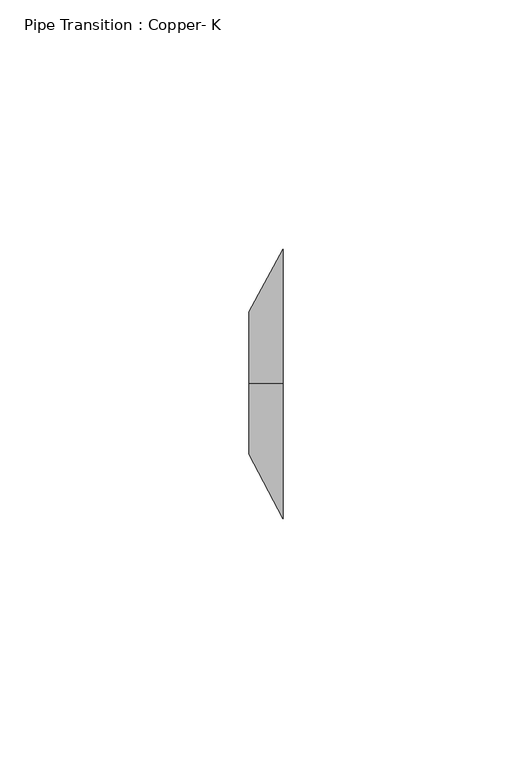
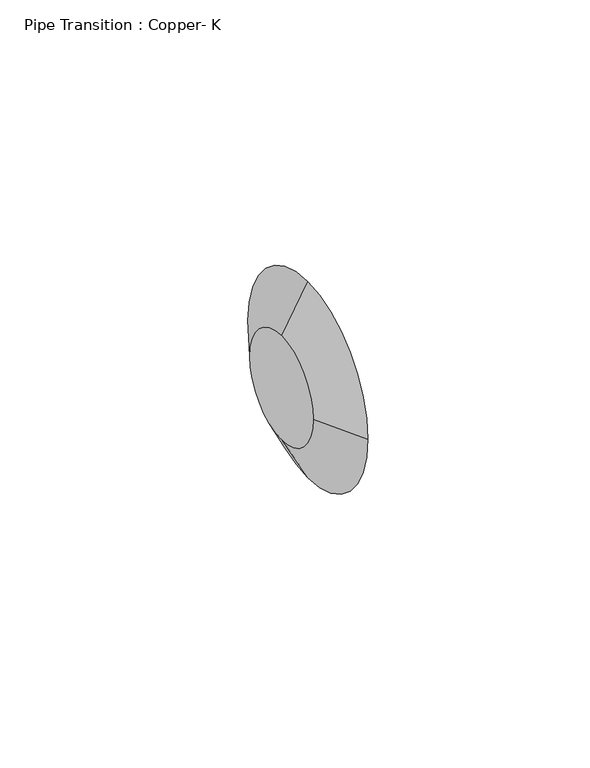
"""IFC4 building model written with IfcOpenShell, lengths in millimetres: pipe fitting geometry, Pipe Transition : Copper- K."""

import ifcopenshell
import ifcopenshell.guid

model = None  # the IFC model being written
_history = None  # IfcOwnerHistory: only IFC2X3 demands one
_inside = {}  # id of a spatial element -> (the spatial element, [elements in it])
_under = {}  # id of a project, library or spatial element -> (it, [spatial elements below it])
_declared = {}  # id of a project -> (the project, [libraries it declares])
_typed = {}  # id of a type object -> (the type object, [elements of that type])
_made_of = {}  # id of a material, layer set ... -> (it, [elements and type objects made of it])


def new_model(schema):
    """Start an empty IFC model of exactly this schema.

    Asked for "IFC4X3", IfcOpenShell would pick the latest addendum, in which some entities
    have other attributes; the version numbers below select the first issue.
    IFC2X3 requires an IfcOwnerHistory on every rooted entity: one is made here for all.
    """
    global model, _history
    if schema == "IFC4X3":
        model = ifcopenshell.file(schema_version=(4, 3, 0, 0))
    else:
        model = ifcopenshell.file(schema=schema)
    _inside.clear()
    _under.clear()
    _declared.clear()
    _typed.clear()
    _made_of.clear()
    _history = None
    if model.schema == "IFC2X3":
        org = make("IfcOrganization", Name="unknown")
        user = make(
            "IfcPersonAndOrganization",
            ThePerson=make("IfcPerson", FamilyName="unknown"),
            TheOrganization=org,
        )
        app = make(
            "IfcApplication",
            ApplicationDeveloper=org,
            Version="unknown",
            ApplicationFullName="unknown",
            ApplicationIdentifier="unknown",
        )
        _history = make(
            "IfcOwnerHistory",
            OwningUser=user,
            OwningApplication=app,
            ChangeAction="ADDED",
            CreationDate=0,
        )
    return model


def make(cls, **values):
    """One entity of the class cls with the attributes given. An attribute that is None is left unset."""
    return model.create_entity(
        cls, **{name: value for name, value in values.items() if value is not None}
    )


def rooted(cls, **values):
    """An entity with a GlobalId (a new one), such as an element, a storey or a relation."""
    return make(cls, GlobalId=ifcopenshell.guid.new(), OwnerHistory=_history, **values)


def si_unit(unit_type, name, prefix=None):
    """IfcSIUnit, for example si_unit("LENGTHUNIT", "METRE", prefix="MILLI")."""
    return make("IfcSIUnit", UnitType=unit_type, Prefix=prefix, Name=name)


def assignment(units):
    """IfcUnitAssignment: the units of a project."""
    return None if units is None else make("IfcUnitAssignment", Units=units)


def point(xyz):
    """IfcCartesianPoint."""
    return None if xyz is None else make("IfcCartesianPoint", Coordinates=xyz)


def direction(xyz):
    """IfcDirection."""
    return None if xyz is None else make("IfcDirection", DirectionRatios=xyz)


def frame(location, z_axis=None, x_axis=None):
    """IfcAxis2Placement3D, a coordinate frame: its origin and axes. An axis left out is left unset."""
    return make(
        "IfcAxis2Placement3D",
        Location=point(location),
        Axis=direction(z_axis),
        RefDirection=direction(x_axis),
    )


def origin():
    """The frame at (0, 0, 0) with its axes left unset."""
    return frame((0.0, 0.0, 0.0))


def place(relative_to, where):
    """IfcLocalPlacement: puts the frame where relative to a parent placement (None: the world)."""
    return make(
        "IfcLocalPlacement", PlacementRelTo=relative_to, RelativePlacement=where
    )


def context(
    kind, dimensions, precision=None, world=None, true_north=None, identifier=None
):
    """IfcGeometricRepresentationContext, for example the 3D "Model" context."""
    return make(
        "IfcGeometricRepresentationContext",
        ContextIdentifier=identifier,
        ContextType=kind,
        CoordinateSpaceDimension=dimensions,
        Precision=precision,
        WorldCoordinateSystem=world,
        TrueNorth=true_north,
    )


def project(units=None, contexts=None):
    """IfcProject with its units and contexts."""
    return rooted(
        "IfcProject",
        Name="project",
        RepresentationContexts=contexts,
        UnitsInContext=assignment(units),
    )


def spatial(cls, under=None, at=None, **own):
    """A site, building, storey or space (cls), placed at a placement, below another one or the project."""
    s = rooted(cls, ObjectPlacement=at, **own)
    if under is not None:
        _under.setdefault(under.id(), (under, []))[1].append(s)
    return s


def circle_curve(where, radius):
    """IfcCircle in the frame where."""
    return make("IfcCircle", Position=where, Radius=radius)


def shape(context_of_items, identifier, shape_type, items):
    """IfcShapeRepresentation: the items that make up one representation, for example the "Body"."""
    return make(
        "IfcShapeRepresentation",
        ContextOfItems=context_of_items,
        RepresentationIdentifier=identifier,
        RepresentationType=shape_type,
        Items=items,
    )


def source(mapping_origin, context_of_items, identifier, shape_type, items):
    """IfcRepresentationMap: a shape defined once, which mapped items show again and again."""
    return make(
        "IfcRepresentationMap",
        MappingOrigin=mapping_origin,
        MappedRepresentation=shape(context_of_items, identifier, shape_type, items),
    )


def transform(
    local_origin,
    x_axis=None,
    y_axis=None,
    z_axis=None,
    scale=None,
    scale2=None,
    scale3=None,
    uniform=True,
):
    """IfcCartesianTransformationOperator3D, or its non-uniform kind. x_axis, y_axis, z_axis: its Axis1, 2, 3."""
    if uniform:
        return make(
            "IfcCartesianTransformationOperator3D",
            Axis1=direction(x_axis),
            Axis2=direction(y_axis),
            LocalOrigin=point(local_origin),
            Scale=scale,
            Axis3=direction(z_axis),
        )
    return make(
        "IfcCartesianTransformationOperator3DnonUniform",
        Axis1=direction(x_axis),
        Axis2=direction(y_axis),
        LocalOrigin=point(local_origin),
        Scale=scale,
        Axis3=direction(z_axis),
        Scale2=scale2,
        Scale3=scale3,
    )


def mapped(mapping_source, mapping_target):
    """IfcMappedItem: shows the shape of a source again, moved by a transform."""
    return make(
        "IfcMappedItem", MappingSource=mapping_source, MappingTarget=mapping_target
    )


def made_of(thing, what):
    """Note that an element or type object is made of a material, layer set ...; save() writes the relation."""
    if what is not None:
        _made_of.setdefault(what.id(), (what, []))[1].append(thing)
    return thing


def element(
    cls,
    number,
    at=None,
    inside=None,
    cuts=None,
    type_object=None,
    material=None,
    context=None,
    identifier="Body",
    shape_type=None,
    held_by="IfcProductDefinitionShape",
    body=None,
    shapes=None,
    **own,
):
    """One element of the class cls, such as IfcWall. Its Tag is "e" and its number.

    at: its placement. inside: the storey or other place that contains it. cuts: it is an
    opening in that element (IfcRelVoidsElement). A single representation is given by context,
    identifier, shape_type and body (its items); several are given by shapes. held_by: the class
    of the entity that holds the representations. save() writes the other relations.
    """
    e = rooted(cls, Tag="e%d" % number, ObjectPlacement=at, **own)
    if body is not None:
        shapes = [shape(context, identifier, shape_type, body)]
    if shapes is not None:
        e.Representation = make(held_by, Representations=shapes)
    if inside is not None:
        _inside.setdefault(inside.id(), (inside, []))[1].append(e)
    if cuts is not None:
        rooted(
            "IfcRelVoidsElement", RelatingBuildingElement=cuts, RelatedOpeningElement=e
        )
    if type_object is not None:
        _typed.setdefault(type_object.id(), (type_object, []))[1].append(e)
    return made_of(e, material)


def aggregate(whole, parts):
    """IfcRelAggregates: a whole, such as a stair, and the parts it consists of."""
    return rooted("IfcRelAggregates", RelatingObject=whole, RelatedObjects=parts)


def save(model, path):
    """Write the relations noted so far, then the file.

    IfcRelAggregates (storeys below a building ...), IfcRelContainedInSpatialStructure (elements
    in a storey), IfcRelDefinesByType, IfcRelAssociatesMaterial and IfcRelDeclares: one each for
    every whole, place, type object, material and project.
    """
    for whole, parts in _under.values():
        aggregate(whole, parts)
    for where, things in _inside.values():
        rooted(
            "IfcRelContainedInSpatialStructure",
            RelatedElements=things,
            RelatingStructure=where,
        )
    for kind, things in _typed.values():
        rooted("IfcRelDefinesByType", RelatedObjects=things, RelatingType=kind)
    for what, things in _made_of.values():
        rooted("IfcRelAssociatesMaterial", RelatedObjects=things, RelatingMaterial=what)
    for by, libraries in _declared.values():
        rooted("IfcRelDeclares", RelatingContext=by, RelatedDefinitions=libraries)
    model.write(path)


def plane_surface(at):
    """IfcPlane: the flat surface through the origin of the frame at, square to its z axis."""
    return make("IfcPlane", Position=at)


def spline_surface(u_degree, v_degree, points, u_multiplicities, v_multiplicities, u_knots, v_knots, weights=None):
    """IfcBSplineSurfaceWithKnots; with weights, IfcRationalBSplineSurfaceWithKnots. points: one row for each step in u."""
    own = dict(
        UDegree=u_degree,
        VDegree=v_degree,
        ControlPointsList=[[point(p) for p in row] for row in points],
        SurfaceForm="UNSPECIFIED",
        UClosed=False,
        VClosed=False,
        SelfIntersect=False,
        UMultiplicities=u_multiplicities,
        VMultiplicities=v_multiplicities,
        UKnots=u_knots,
        VKnots=v_knots,
        KnotSpec="UNSPECIFIED",
    )
    if weights is None:
        return make("IfcBSplineSurfaceWithKnots", **own)
    return make("IfcRationalBSplineSurfaceWithKnots", WeightsData=weights, **own)


def advanced_brep(points, edges, surfaces, faces):
    """IfcAdvancedBrep: a solid bounded by faces that lie on surfaces and meet in shared edges.

    An edge is (start, end): straight between two places in points (the first is 0);
    or (start, end, curve); or (start, end, curve, False) where it runs against its curve.
    A face is (place in surfaces, loops), or (place, loops, False) where it looks against
    its surface's normal. A loop lists edges by number (the first is 1), with a minus sign
    where the edge is run from its end to its start. The first loop is the outer one.
    """
    corners = [point(p) for p in points]
    vertices = [make("IfcVertexPoint", VertexGeometry=c) for c in corners]
    made = []
    for start, end, *more in edges:
        made.append(
            make(
                "IfcEdgeCurve",
                EdgeStart=vertices[start],
                EdgeEnd=vertices[end],
                EdgeGeometry=more[0] if more else make("IfcPolyline", Points=[corners[start], corners[end]]),
                SameSense=more[1] if len(more) > 1 else True,
            )
        )
    hull = []
    for where, loops, *sense in faces:
        bounds = []
        for j, loop in enumerate(loops):
            ring = [make("IfcOrientedEdge", EdgeElement=made[abs(k) - 1], Orientation=k > 0) for k in loop]
            bounds.append(
                make(
                    "IfcFaceOuterBound" if j == 0 else "IfcFaceBound",
                    Bound=make("IfcEdgeLoop", EdgeList=ring),
                    Orientation=True,
                )
            )
        hull.append(make("IfcAdvancedFace", Bounds=bounds, FaceSurface=surfaces[where], SameSense=sense[0] if sense else True))
    return make("IfcAdvancedBrep", Outer=make("IfcClosedShell", CfsFaces=hull))


def pipe_transition_copper_k_d17fcfb6(model_context):
    return source(origin(), model_context, "Body", "AdvancedBrep", [
        advanced_brep(
        [(6.746875, -0.1921242, 26.9875), (6.746875, -27.1796242, 0.0), (6.746875, -0.1921242, -26.9875), (6.746875, 26.7953758, 0.0), (0.0, 0.0, 14.2875), (0.0, 14.2875, 0.0), (0.0, 0.0, -14.2875), (0.0, -14.2875, 0.0)],
        [
            (0, 1, circle_curve(frame((6.746875, -0.1921242, 0.0), z_axis=(1.0, 0.0, 0.0), x_axis=(0.0, 1.0, 0.0)), 26.9875)),
            (1, 2, circle_curve(frame((6.746875, -0.1921242, 0.0), z_axis=(1.0, 0.0, 0.0), x_axis=(0.0, 1.0, 0.0)), 26.9875)),
            (2, 3, circle_curve(frame((6.746875, -0.1921242, 0.0), z_axis=(1.0, 0.0, 0.0), x_axis=(0.0, 1.0, 0.0)), 26.9875)),
            (3, 0, circle_curve(frame((6.746875, -0.1921242, 0.0), z_axis=(1.0, 0.0, 0.0), x_axis=(0.0, 1.0, 0.0)), 26.9875)),
            (4, 5, circle_curve(frame((0.0, 0.0, 0.0), z_axis=(-1.0, 0.0, 0.0), x_axis=(0.0, 1.0, 0.0)), 14.2875)),
            (5, 6, circle_curve(frame((0.0, 0.0, 0.0), z_axis=(-1.0, 0.0, 0.0), x_axis=(0.0, 1.0, 0.0)), 14.2875)),
            (6, 7, circle_curve(frame((0.0, 0.0, 0.0), z_axis=(-1.0, 0.0, 0.0), x_axis=(0.0, 1.0, 0.0)), 14.2875)),
            (7, 4, circle_curve(frame((0.0, 0.0, 0.0), z_axis=(-1.0, 0.0, 0.0), x_axis=(0.0, 1.0, 0.0)), 14.2875)),
            (7, 1),
            (0, 4),
            (6, 2),
            (5, 3),
        ],
        [
            plane_surface(frame((6.746875, -0.1921242, 0.0), z_axis=(1.0, 0.0, 0.0), x_axis=(0.0, -1.0, 0.0))),
            plane_surface(frame((0.0, 0.0, 0.0), z_axis=(-1.0, 0.0, 0.0), x_axis=(0.0, -1.0, 0.0))),
            spline_surface(2, 1, [[(0.0, 0.0, 14.2875), (6.746875, -0.1921242, 26.9875)], [(0.0, -14.2875, 14.2875), (6.746875, -27.1796242, 26.9875)], [(0.0, -14.2875, 0.0), (6.746875, -27.1796242, 0.0)]], [3, 3], [2, 2], [0.0, 1.0], [0.0, 1.0], weights=[[1.0, 1.0], [0.7071067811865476, 0.7071067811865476], [1.0, 1.0]]),
            spline_surface(2, 1, [[(0.0, -14.2875, 0.0), (6.746875, -27.1796242, 0.0)], [(0.0, -14.2875, -14.2875), (6.746875, -27.1796242, -26.9875)], [(0.0, 0.0, -14.2875), (6.746875, -0.1921242, -26.9875)]], [3, 3], [2, 2], [0.0, 1.0], [0.0, 1.0], weights=[[1.0, 1.0], [0.7071067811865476, 0.7071067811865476], [1.0, 1.0]]),
            spline_surface(2, 1, [[(0.0, 0.0, -14.2875), (6.746875, -0.1921242, -26.9875)], [(0.0, 14.2875, -14.287500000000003), (6.746875, 26.795375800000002, -26.987500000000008)], [(0.0, 14.2875, 0.0), (6.746875, 26.7953758, 0.0)]], [3, 3], [2, 2], [0.0, 1.0], [0.0, 1.0], weights=[[1.0, 1.0], [0.7071067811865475, 0.7071067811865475], [1.0, 1.0]]),
            spline_surface(2, 1, [[(0.0, 14.2875, 0.0), (6.746875, 26.7953758, 0.0)], [(0.0, 14.287499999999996, 14.2875), (6.746875, 26.79537579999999, 26.987499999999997)], [(0.0, 0.0, 14.2875), (6.746875, -0.1921242, 26.9875)]], [3, 3], [2, 2], [0.0, 1.0], [0.0, 1.0], weights=[[1.0, 1.0], [0.7071067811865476, 0.7071067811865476], [1.0, 1.0]]),
        ],
        [
            (0, [[1, 2, 3, 4]]),
            (1, [[5, 6, 7, 8]]),
            (2, [[-8, 9, -1, 10]]),
            (3, [[-7, 11, -2, -9]]),
            (4, [[-6, 12, -3, -11]]),
            (5, [[-5, -10, -4, -12]]),
        ],
    ),
        advanced_brep(
        [(6.746875, -0.1921242, 26.9875), (6.746875, -27.1796242, 0.0), (6.746875, -0.1921242, -26.9875), (6.746875, 26.7953758, 0.0), (0.0, 0.0, 14.2875), (0.0, 14.2875, 0.0), (0.0, 0.0, -14.2875), (0.0, -14.2875, 0.0)],
        [
            (0, 1, circle_curve(frame((6.746875, -0.1921242, 0.0), z_axis=(1.0, 0.0, 0.0), x_axis=(0.0, 1.0, 0.0)), 26.9875)),
            (1, 2, circle_curve(frame((6.746875, -0.1921242, 0.0), z_axis=(1.0, 0.0, 0.0), x_axis=(0.0, 1.0, 0.0)), 26.9875)),
            (2, 3, circle_curve(frame((6.746875, -0.1921242, 0.0), z_axis=(1.0, 0.0, 0.0), x_axis=(0.0, 1.0, 0.0)), 26.9875)),
            (3, 0, circle_curve(frame((6.746875, -0.1921242, 0.0), z_axis=(1.0, 0.0, 0.0), x_axis=(0.0, 1.0, 0.0)), 26.9875)),
            (4, 5, circle_curve(frame((0.0, 0.0, 0.0), z_axis=(-1.0, 0.0, 0.0), x_axis=(0.0, 1.0, 0.0)), 14.2875)),
            (5, 6, circle_curve(frame((0.0, 0.0, 0.0), z_axis=(-1.0, 0.0, 0.0), x_axis=(0.0, 1.0, 0.0)), 14.2875)),
            (6, 7, circle_curve(frame((0.0, 0.0, 0.0), z_axis=(-1.0, 0.0, 0.0), x_axis=(0.0, 1.0, 0.0)), 14.2875)),
            (7, 4, circle_curve(frame((0.0, 0.0, 0.0), z_axis=(-1.0, 0.0, 0.0), x_axis=(0.0, 1.0, 0.0)), 14.2875)),
            (7, 1),
            (0, 4),
            (6, 2),
            (5, 3),
        ],
        [
            plane_surface(frame((6.746875, -0.1921242, 0.0), z_axis=(1.0, 0.0, 0.0), x_axis=(0.0, -1.0, 0.0))),
            plane_surface(frame((0.0, 0.0, 0.0), z_axis=(-1.0, 0.0, 0.0), x_axis=(0.0, -1.0, 0.0))),
            spline_surface(2, 1, [[(0.0, 0.0, 14.2875), (6.746875, -0.1921242, 26.9875)], [(0.0, -14.2875, 14.2875), (6.746875, -27.1796242, 26.9875)], [(0.0, -14.2875, 0.0), (6.746875, -27.1796242, 0.0)]], [3, 3], [2, 2], [0.0, 1.0], [0.0, 1.0], weights=[[1.0, 1.0], [0.7071067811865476, 0.7071067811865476], [1.0, 1.0]]),
            spline_surface(2, 1, [[(0.0, -14.2875, 0.0), (6.746875, -27.1796242, 0.0)], [(0.0, -14.2875, -14.2875), (6.746875, -27.1796242, -26.9875)], [(0.0, 0.0, -14.2875), (6.746875, -0.1921242, -26.9875)]], [3, 3], [2, 2], [0.0, 1.0], [0.0, 1.0], weights=[[1.0, 1.0], [0.7071067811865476, 0.7071067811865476], [1.0, 1.0]]),
            spline_surface(2, 1, [[(0.0, 0.0, -14.2875), (6.746875, -0.1921242, -26.9875)], [(0.0, 14.2875, -14.287500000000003), (6.746875, 26.795375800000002, -26.987500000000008)], [(0.0, 14.2875, 0.0), (6.746875, 26.7953758, 0.0)]], [3, 3], [2, 2], [0.0, 1.0], [0.0, 1.0], weights=[[1.0, 1.0], [0.7071067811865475, 0.7071067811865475], [1.0, 1.0]]),
            spline_surface(2, 1, [[(0.0, 14.2875, 0.0), (6.746875, 26.7953758, 0.0)], [(0.0, 14.287499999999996, 14.2875), (6.746875, 26.79537579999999, 26.987499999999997)], [(0.0, 0.0, 14.2875), (6.746875, -0.1921242, 26.9875)]], [3, 3], [2, 2], [0.0, 1.0], [0.0, 1.0], weights=[[1.0, 1.0], [0.7071067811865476, 0.7071067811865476], [1.0, 1.0]]),
        ],
        [
            (0, [[1, 2, 3, 4]]),
            (1, [[5, 6, 7, 8]]),
            (2, [[-8, 9, -1, 10]]),
            (3, [[-7, 11, -2, -9]]),
            (4, [[-6, 12, -3, -11]]),
            (5, [[-5, -10, -4, -12]]),
        ],
    ),
    ])


if __name__ == "__main__":
    model = new_model("IFC4")
    model_context = context("Model", 3, world=origin())
    ifc_project = project(units=[si_unit("LENGTHUNIT", "METRE", prefix="MILLI")], contexts=[model_context])
    site = spatial("IfcSite", under=ifc_project)
    building = spatial("IfcBuilding", under=site)
    placement = place(None, origin())
    pipe_transition_copper_k_shape = pipe_transition_copper_k_d17fcfb6(model_context)
    element("IfcPipeFitting", 1, ObjectType="Pipe Transition : Copper- K", at=placement, inside=building, context=model_context, shape_type="MappedRepresentation", body=[
        mapped(pipe_transition_copper_k_shape, transform((0.0, 0.0, 0.0), x_axis=(1.0, 0.0, 0.0), y_axis=(0.0, 1.0, 0.0), z_axis=(0.0, 0.0, 1.0))),
    ])
    save(model, "model.ifc")
